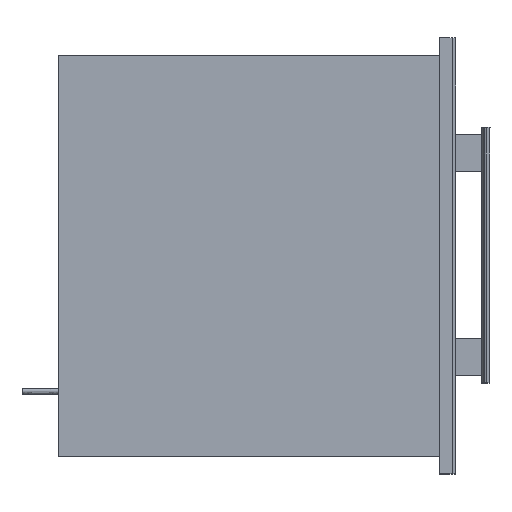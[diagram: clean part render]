
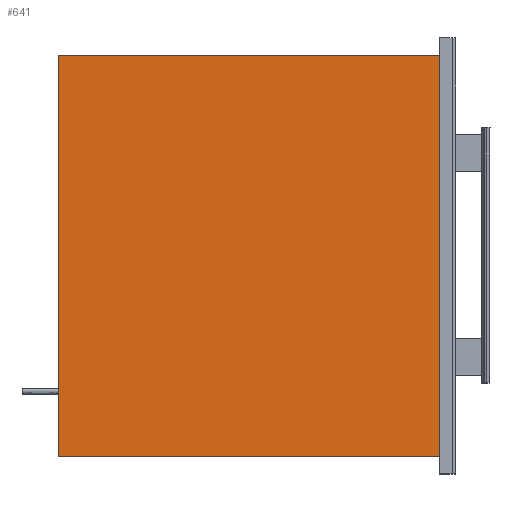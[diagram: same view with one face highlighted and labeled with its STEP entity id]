
A CAD part, top view. The second image highlights one B-rep face of the part: STEP entity #641.
In plain terms, the highlighted free-form (B-spline) face has degree [1, 1] with [2, 2] control points.
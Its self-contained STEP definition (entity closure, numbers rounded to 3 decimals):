
#641=ADVANCED_FACE('',(#884),#2890,.T.);
#884=FACE_OUTER_BOUND('',#1129,.T.);
#1129=EDGE_LOOP('',(#1808,#1809,#1810,#1811));
#1808=ORIENTED_EDGE('',*,*,#2379,.T.);
#1809=ORIENTED_EDGE('',*,*,#2375,.T.);
#1810=ORIENTED_EDGE('',*,*,#2378,.F.);
#1811=ORIENTED_EDGE('',*,*,#2372,.F.);
#2372=EDGE_CURVE('',#2712,#2713,#3083,.T.);
#2375=EDGE_CURVE('',#2714,#2715,#3086,.T.);
#2378=EDGE_CURVE('',#2713,#2715,#3089,.T.);
#2379=EDGE_CURVE('',#2712,#2714,#3090,.T.);
#2712=VERTEX_POINT('',#12106);
#2713=VERTEX_POINT('',#12107);
#2714=VERTEX_POINT('',#12108);
#2715=VERTEX_POINT('',#12109);
#2890=B_SPLINE_SURFACE_WITH_KNOTS('',1,1,((#12082,#12083),(#12084,#12085)),
.UNSPECIFIED.,.F.,.F.,.F.,(2,2),(2,2),(0.048,0.96),
(0.075,0.943),.UNSPECIFIED.);
#3083=B_SPLINE_CURVE_WITH_KNOTS('',3,(#11954,#11955,#11956,#11957),.UNSPECIFIED.,
.F.,.F.,(4,4),(23.843,571.345),.UNSPECIFIED.);
#3086=B_SPLINE_CURVE_WITH_KNOTS('',1,(#11972,#11973),.UNSPECIFIED.,.F.,.F.,
(2,2),(0.04,0.952),.UNSPECIFIED.);
#3089=B_SPLINE_CURVE_WITH_KNOTS('',1,(#11978,#11979),.UNSPECIFIED.,.F.,.F.,
(2,2),(0.075,0.943),.UNSPECIFIED.);
#3090=B_SPLINE_CURVE_WITH_KNOTS('',1,(#11980,#11981),.UNSPECIFIED.,.F.,.F.,
(2,2),(0.075,0.943),.UNSPECIFIED.);
#11954=CARTESIAN_POINT('',(-520.589,-273.752,445.089));
#11955=CARTESIAN_POINT('',(-520.589,-91.251,445.089));
#11956=CARTESIAN_POINT('',(-520.589,91.249,445.089));
#11957=CARTESIAN_POINT('',(-520.589,273.75,445.089));
#11972=CARTESIAN_POINT('',(-0.089,-273.752,445.089));
#11973=CARTESIAN_POINT('',(-0.089,273.75,445.089));
#11978=CARTESIAN_POINT('',(-520.589,273.75,445.089));
#11979=CARTESIAN_POINT('',(-0.089,273.75,445.089));
#11980=CARTESIAN_POINT('',(-520.589,-273.752,445.089));
#11981=CARTESIAN_POINT('',(-0.089,-273.752,445.089));
#12082=CARTESIAN_POINT('',(-520.589,273.75,445.089));
#12083=CARTESIAN_POINT('',(-0.089,273.75,445.089));
#12084=CARTESIAN_POINT('',(-520.589,-273.752,445.089));
#12085=CARTESIAN_POINT('',(-0.089,-273.752,445.089));
#12106=CARTESIAN_POINT('',(-520.589,-273.752,445.089));
#12107=CARTESIAN_POINT('',(-520.589,273.75,445.089));
#12108=CARTESIAN_POINT('',(-0.089,-273.752,445.089));
#12109=CARTESIAN_POINT('',(-0.089,273.75,445.089));
